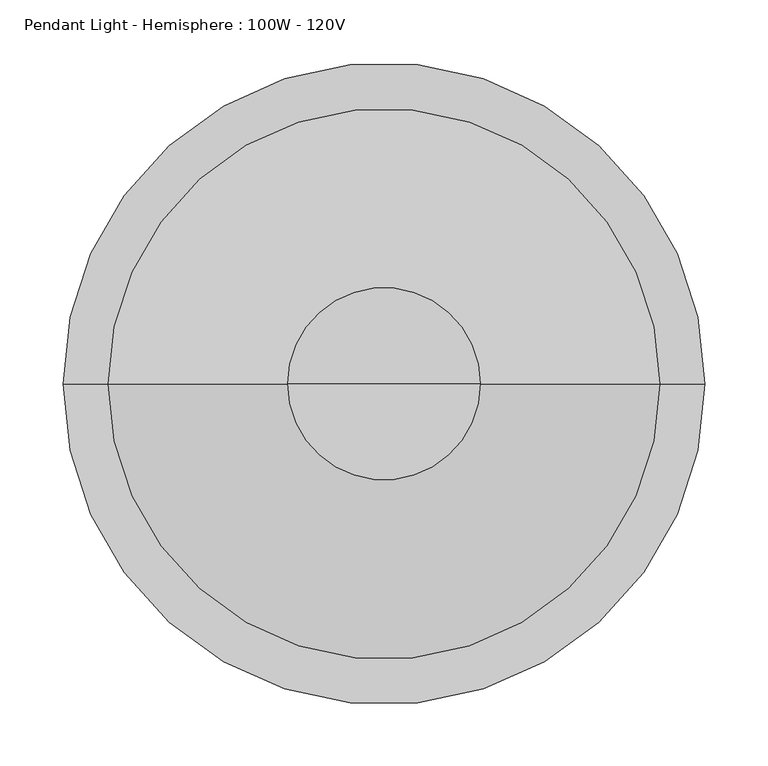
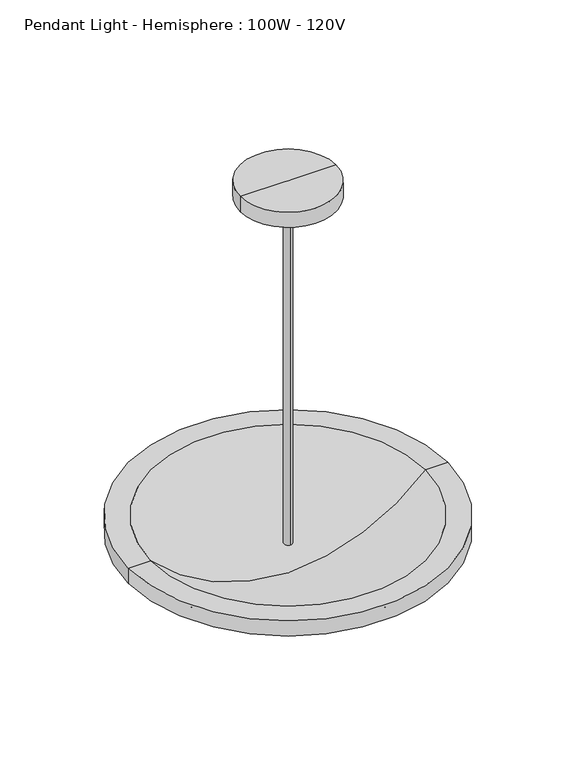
"""IFC4 building model written with IfcOpenShell, lengths in millimetres: light fixture geometry, Pendant Light - Hemisphere : 100W - 120V."""

from ifc_helpers import new_model, si_unit, point, frame, origin, place, context, project, spatial, polyline, circle_curve, ellipse_curve, trimmed, source, transform, mapped, element, save
from ifc_brep_helpers import plane_surface, cylinder_surface, revolved_surface, advanced_brep


def pendant_light_hemisphere_100w_120v_9c66a66f(model_context):
    return source(origin(), model_context, "Body", "AdvancedBrep", [
        advanced_brep(
        [(76.2, 0.0, 2413.0), (-76.2, 0.0, 2413.0), (-76.2, 0.0, 2438.4), (76.2, 0.0, 2438.4), (6.35, 0.0, 2380.4284101), (0.0, 6.35, 2380.4284101), (-6.35, 0.0, 2380.4284101), (0.0, -6.35, 2380.4284101), (-6.35, 0.0, 2438.4), (0.0, 0.0, 2438.4), (6.35, 0.0, 2438.4), (0.0, 6.35, 1828.8000062), (0.0, -6.35, 1828.8000062)],
        [
            (0, 1, circle_curve(frame((0.0, 0.0, 2413.0), z_axis=(0.0, 0.0, 1.0), x_axis=(-1.0, 0.0, 0.0)), 76.2)),
            (1, 2),
            (2, 3, circle_curve(frame((0.0, 0.0, 2438.4), z_axis=(0.0, 0.0, -1.0), x_axis=(-1.0, 0.0, 0.0)), 76.2)),
            (3, 0),
            (1, 0, circle_curve(frame((0.0, 0.0, 2413.0), z_axis=(0.0, 0.0, 1.0), x_axis=(-1.0, 0.0, 0.0)), 76.2)),
            (3, 2, circle_curve(frame((0.0, 0.0, 2438.4), z_axis=(0.0, 0.0, -1.0), x_axis=(-1.0, 0.0, 0.0)), 76.2)),
            (0, 4),
            (4, 5, circle_curve(frame((0.0, 0.0, 2380.4284101), z_axis=(0.0, 0.0, 1.0), x_axis=(-1.0, 0.0, 0.0)), 6.35)),
            (5, 6, circle_curve(frame((0.0, 0.0, 2380.4284101), z_axis=(0.0, 0.0, 1.0), x_axis=(-1.0, 0.0, 0.0)), 6.35)),
            (6, 1),
            (6, 7, circle_curve(frame((0.0, 0.0, 2380.4284101), z_axis=(0.0, 0.0, 1.0), x_axis=(-1.0, 0.0, 0.0)), 6.35)),
            (7, 4, circle_curve(frame((0.0, 0.0, 2380.4284101), z_axis=(0.0, 0.0, 1.0), x_axis=(-1.0, 0.0, 0.0)), 6.35)),
            (2, 8),
            (8, 9),
            (9, 10),
            (10, 3),
            (11, 12, circle_curve(frame((0.0, 0.0, 1828.8000062), z_axis=(0.0, 0.0, -1.0), x_axis=(0.0, -1.0, 0.0)), 6.35)),
            (12, 11, circle_curve(frame((0.0, 0.0, 1828.8000062), z_axis=(0.0, 0.0, -1.0), x_axis=(0.0, -1.0, 0.0)), 6.35)),
            (12, 7),
            (5, 11),
        ],
        [
            cylinder_surface(frame((0.0, 0.0, 2514.6), z_axis=(0.0, 0.0, -1.0), x_axis=(-1.0, 0.0, 0.0)), 76.2),
            revolved_surface(polyline([(-76.2, 0.0, 2413.0), (0.0, 0.0, 2377.4673564)]), (0.0, 0.0, 2514.6), (0.0, 0.0, -1.0)),
            plane_surface(frame((0.0, 0.0, 2438.4), z_axis=(0.0, 0.0, 1.0), x_axis=(-1.0, 0.0, 0.0))),
            plane_surface(frame((0.0, -6.35, 1828.8000062), z_axis=(0.0, 0.0, -1.0), x_axis=(-1.0, 0.0, 0.0))),
            cylinder_surface(frame((0.0, 0.0, 1828.8000062), z_axis=(0.0, 0.0, 1.0), x_axis=(0.0, -1.0, 0.0)), 6.35),
        ],
        [
            (0, [[1, 2, 3, 4]]),
            (0, [[-2, 5, -4, 6]]),
            (1, [[-1, 7, 8, 9, 10]]),
            (1, [[-5, -10, 11, 12, -7]]),
            (2, [[-3, 13, 14, 15, 16]]),
            (2, [[-6, -16, -15, -14, -13]]),
            (3, [[17, 18]]),
            (4, [[-18, 19, -11, -9, 20]]),
            (4, [[-17, -20, -8, -12, -19]]),
        ],
    ),
        advanced_brep(
        [(0.0, 0.0, 1752.5999938), (-228.9004272, 0.0, 1849.3282446), (228.9004272, 0.0, 1849.3282446), (218.3605921, 0.0, 1874.8510876), (-218.3605921, 0.0, 1874.8510876), (0.0, 0.0, 1777.9666257), (254.3004272, 0.0, 1874.8510876), (-254.3004272, 0.0, 1874.8510876), (254.3004272, 0.0, 1849.3282446), (-254.3004272, 0.0, 1849.3282446)],
        [
            (0, 1, circle_curve(frame((5.6276544, 0.0, 2085.1197309), z_axis=(0.0, 1.0, 0.0), x_axis=(0.0, 0.0, -1.0)), 332.5673556)),
            (1, 2, circle_curve(frame((0.0, 0.0, 1849.3282446), z_axis=(0.0, 0.0, -1.0), x_axis=(-1.0, 0.0, 0.0)), 228.9004272)),
            (2, 0, circle_curve(frame((-5.6276544, 0.0, 2085.1197309), z_axis=(0.0, 1.0, 0.0), x_axis=(0.0, 0.0, -1.0)), 332.5673556)),
            (2, 1, circle_curve(frame((0.0, 0.0, 1849.3282446), z_axis=(0.0, 0.0, -1.0), x_axis=(-1.0, 0.0, 0.0)), 228.9004272)),
            (3, 4, circle_curve(frame((0.0, 0.0, 1874.8510876), z_axis=(0.0, 0.0, 1.0), x_axis=(-1.0, 0.0, 0.0)), 218.3605921)),
            (4, 5, circle_curve(frame((7.2507854, 0.0, 2088.8241026), z_axis=(0.0, -1.0, 0.0), x_axis=(0.0, 0.0, -1.0)), 310.9420281)),
            (5, 3, circle_curve(frame((-7.2507854, 0.0, 2088.8241026), z_axis=(0.0, -1.0, 0.0), x_axis=(0.0, 0.0, -1.0)), 310.9420281)),
            (4, 3, circle_curve(frame((0.0, 0.0, 1874.8510876), z_axis=(0.0, 0.0, 1.0), x_axis=(-1.0, 0.0, 0.0)), 218.3605921)),
            (6, 7, circle_curve(frame((0.0, 0.0, 1874.8510876), z_axis=(0.0, 0.0, 1.0), x_axis=(-1.0, 0.0, 0.0)), 254.3004272)),
            (7, 4),
            (3, 6),
            (7, 6, circle_curve(frame((0.0, 0.0, 1874.8510876), z_axis=(0.0, 0.0, 1.0), x_axis=(-1.0, 0.0, 0.0)), 254.3004272)),
            (8, 9, circle_curve(frame((0.0, 0.0, 1849.3282446), z_axis=(0.0, 0.0, 1.0), x_axis=(-1.0, 0.0, 0.0)), 254.3004272)),
            (9, 7),
            (6, 8),
            (9, 8, circle_curve(frame((0.0, 0.0, 1849.3282446), z_axis=(0.0, 0.0, 1.0), x_axis=(-1.0, 0.0, 0.0)), 254.3004272)),
            (1, 9),
            (8, 2),
        ],
        [
            revolved_surface(trimmed(ellipse_curve(frame((5.6276544, 0.0, 2085.1197309), z_axis=(0.0, -1.0, 0.0), x_axis=(0.0, 0.0, -1.0)), 332.5673556, 332.5673556), [point((-228.9004272, 0.0, 1849.3282446))], [point((0.0, 0.0, 1752.5999938))], True, "CARTESIAN"), (0.0, 0.0, 1925.6510876), (0.0, 0.0, -1.0)),
            revolved_surface(trimmed(ellipse_curve(frame((7.2507854, 0.0, 2088.8241026), z_axis=(0.0, 1.0, 0.0), x_axis=(0.0, 0.0, -1.0)), 310.9420281, 310.9420281), [point((0.0, 0.0, 1777.9666257))], [point((-218.3605921, 0.0, 1874.8510876))], True, "CARTESIAN"), (0.0, 0.0, 1925.6510876), (0.0, 0.0, -1.0)),
            plane_surface(frame((0.0, 0.0, 1874.8510876), z_axis=(0.0, 0.0, 1.0), x_axis=(-1.0, 0.0, 0.0))),
            cylinder_surface(frame((0.0, 0.0, 1925.6510876), z_axis=(0.0, 0.0, -1.0), x_axis=(-1.0, 0.0, 0.0)), 254.3004272),
            plane_surface(frame((0.0, 0.0, 1849.3282446), z_axis=(0.0, 0.0, -1.0), x_axis=(-1.0, 0.0, 0.0))),
        ],
        [
            (0, [[1, 2, 3]]),
            (0, [[-3, 4, -1]]),
            (1, [[5, 6, 7]]),
            (1, [[8, -7, -6]]),
            (2, [[9, 10, -5, 11]]),
            (2, [[12, -11, -8, -10]]),
            (3, [[13, 14, -9, 15]]),
            (3, [[16, -15, -12, -14]]),
            (4, [[-2, 17, -13, 18]]),
            (4, [[-4, -18, -16, -17]]),
        ],
    ),
    ])


if __name__ == "__main__":
    model = new_model("IFC4")
    model_context = context("Model", 3, world=origin())
    ifc_project = project(units=[si_unit("LENGTHUNIT", "METRE", prefix="MILLI")], contexts=[model_context])
    site = spatial("IfcSite", under=ifc_project)
    building = spatial("IfcBuilding", under=site)
    placement = place(None, origin())
    pendant_light_hemisphere_100w_120v_shape = pendant_light_hemisphere_100w_120v_9c66a66f(model_context)
    element("IfcLightFixture", 1, ObjectType="Pendant Light - Hemisphere : 100W - 120V", at=placement, inside=building, context=model_context, shape_type="MappedRepresentation", body=[
        mapped(pendant_light_hemisphere_100w_120v_shape, transform((0.0, 0.0, 0.0), x_axis=(1.0, 0.0, 0.0), y_axis=(0.0, 1.0, 0.0), z_axis=(0.0, 0.0, 1.0))),
    ])
    save(model, "model.ifc")
